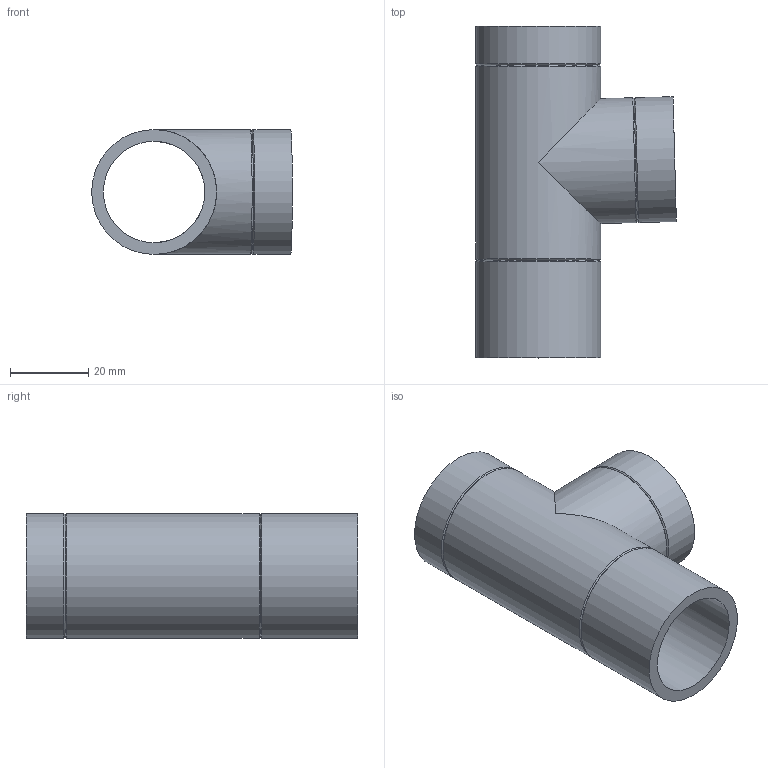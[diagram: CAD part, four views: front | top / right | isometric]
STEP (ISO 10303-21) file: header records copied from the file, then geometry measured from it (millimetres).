
FILE_DESCRIPTION(/* description */ (''),/* implementation_level */ '2;1');
FILE_NAME(/* name */ 'Z:\Geberit\Export\NewStep\379158.stp',/* time_stamp */ '2014-04-02T08:07:29+02:00',/* author */ ('nelson'),/* organization */ (''),/* preprocessor_version */ 'ST-DEVELOPER v15.2',/* originating_system */ 'Autodesk Inventor 2014',/* authorisation */ '');
FILE_SCHEMA (('AUTOMOTIVE_DESIGN { 1 0 10303 214 3 1 1 }'));
Length unit declared in the file: millimetre
Products named in the file (1): 379158
Bounding box: 51.41 x 85 x 32 mm (x, y, z)
Volume: 27701.8 mm3; surface area: 19361.5 mm2
Topology: 1 solids, 1 shells, 16 faces, 39 edges, 25 vertices
Faces by surface type: cylinder 7, cone 6, plane 3
Full cylindrical faces by diameter (mm): 26 x2, 32 x5
Entity records: 399 total; most frequent: DIRECTION 72, CARTESIAN_POINT 55, ORIENTED_EDGE 38, AXIS2_PLACEMENT_3D 36, EDGE_LOOP 34, FACE_BOUND 22, VERTEX_POINT 19, EDGE_CURVE 19
